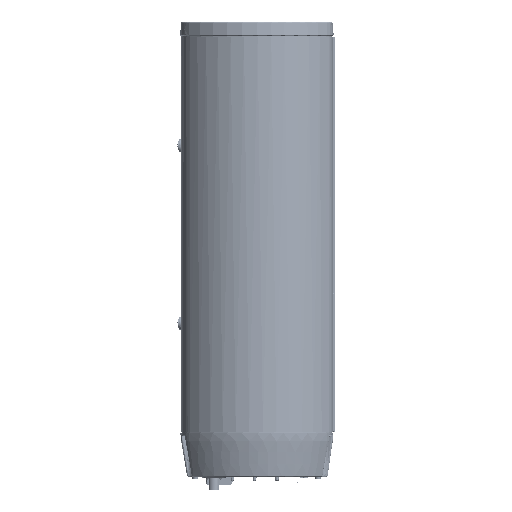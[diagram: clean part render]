
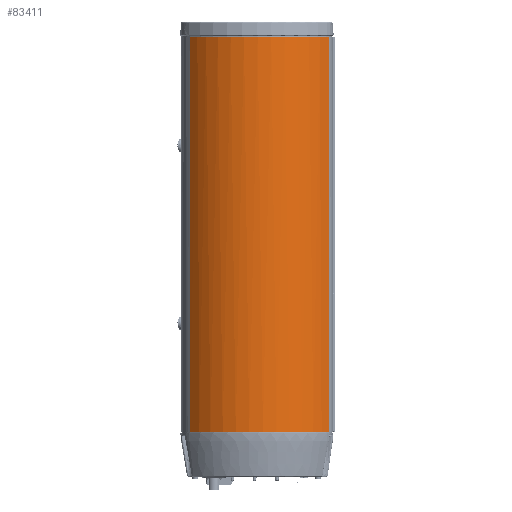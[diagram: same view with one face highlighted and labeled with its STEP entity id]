
A CAD part, left-side view. The second image highlights one B-rep face of the part: STEP entity #83411.
In plain terms, the highlighted cylindrical face has radius 81.17 mm (diameter 162.34 mm), a partial arc.
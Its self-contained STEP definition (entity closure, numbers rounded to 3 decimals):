
#901 = CARTESIAN_POINT ( 'NONE',  ( -45.294, -62.357, 356.6 ) ) ;
#932 = EDGE_CURVE ( 'NONE', #352922, #69994, #72249, .T. ) ;
#8185 = CARTESIAN_POINT ( 'NONE',  ( -54.368, -54.548, 1. ) ) ;
#23784 = CARTESIAN_POINT ( 'NONE',  ( -77.149, 5.384, 356.6 ) ) ;
#28968 = CARTESIAN_POINT ( 'NONE',  ( -45.294, -62.357, 119.533 ) ) ;
#39889 = CARTESIAN_POINT ( 'NONE',  ( -76.768, -6.563, 1. ) ) ;
#52323 = AXIS2_PLACEMENT_3D ( 'NONE', #254374, #110401, #84155 ) ;
#52720 = ORIENTED_EDGE ( 'NONE', *, *, #175938, .T. ) ;
#57370 = CARTESIAN_POINT ( 'NONE',  ( -62.019, -45.364, 356.6 ) ) ;
#62491 = CARTESIAN_POINT ( 'NONE',  ( -76.678, 11.379, 1. ) ) ;
#64326 = CARTESIAN_POINT ( 'NONE',  ( -62.019, -45.364, 1. ) ) ;
#69994 = VERTEX_POINT ( 'NONE', #242656 ) ;
#72249 = B_SPLINE_CURVE_WITH_KNOTS ( 'NONE', 3,
 ( #241922, #99760, #96093, #240087, #296239, #213853, #210177, #62491, #176644, #39889, #236434, #122332, #290723, #264488, #64326, #8185, #350460, #94270 ),
 .UNSPECIFIED., .F., .F.,
 ( 4, 2, 2, 2, 2, 2, 2, 2, 4 ),
 ( 0., 0.125, 0.25, 0.375, 0.5, 0.625, 0.75, 0.875, 1. ),
 .UNSPECIFIED. ) ;
#76653 = VERTEX_POINT ( 'NONE', #95900 ) ;
#79966 = CARTESIAN_POINT ( 'NONE',  ( -65.335, -40.348, 356.6 ) ) ;
#83411 = ADVANCED_FACE ( 'NONE', ( #136608 ), #220796, .T. ) ;
#83637 = CARTESIAN_POINT ( 'NONE',  ( -76.768, -6.563, 356.6 ) ) ;
#84155 = DIRECTION ( 'NONE',  ( 1., 0., 0. ) ) ;
#87245 = EDGE_LOOP ( 'NONE', ( #135929, #210791, #229023, #52720 ) ) ;
#94270 = CARTESIAN_POINT ( 'NONE',  ( -45.294, -62.357, 1. ) ) ;
#95900 = CARTESIAN_POINT ( 'NONE',  ( -45.294, -62.357, 356.6 ) ) ;
#96093 = CARTESIAN_POINT ( 'NONE',  ( -57.855, 54.699, 1. ) ) ;
#99760 = CARTESIAN_POINT ( 'NONE',  ( -53.795, 59.135, 1. ) ) ;
#108037 = CARTESIAN_POINT ( 'NONE',  ( -45.294, -62.357, 356.6 ) ) ;
#108099 = CARTESIAN_POINT ( 'NONE',  ( -49.298, 63.072, 356.6 ) ) ;
#110401 = DIRECTION ( 'NONE',  ( 0., 0., 1. ) ) ;
#113212 = CARTESIAN_POINT ( 'NONE',  ( -45.294, -62.357, 1. ) ) ;
#122332 = CARTESIAN_POINT ( 'NONE',  ( -72.925, -24.089, 1. ) ) ;
#135929 = ORIENTED_EDGE ( 'NONE', *, *, #176969, .F. ) ;
#136063 = VERTEX_POINT ( 'NONE', #357097 ) ;
#136608 = FACE_OUTER_BOUND ( 'NONE', #87245, .T. ) ;
#144855 = CARTESIAN_POINT ( 'NONE',  ( -49.298, 63.072, 1. ) ) ;
#163556 = B_SPLINE_CURVE_WITH_KNOTS ( 'NONE', 3,
 ( #252102, #308244, #287542, #108099 ),
 .UNSPECIFIED., .F., .F.,
 ( 4, 4 ),
 ( 0., 1. ),
 .UNSPECIFIED. ) ;
#171526 = CARTESIAN_POINT ( 'NONE',  ( -70.788, -29.71, 356.6 ) ) ;
#175938 = EDGE_CURVE ( 'NONE', #76653, #136063, #191438, .T. ) ;
#176644 = CARTESIAN_POINT ( 'NONE',  ( -77.149, 5.384, 1. ) ) ;
#176969 = EDGE_CURVE ( 'NONE', #352922, #136063, #163556, .T. ) ;
#191438 = B_SPLINE_CURVE_WITH_KNOTS ( 'NONE', 3,
 ( #108037, #369727, #194076, #57370, #79966, #171526, #199566, #306348, #83637, #23784, #225793, #223974, #308189, #367895, #343561, #229467, #252043, #278272 ),
 .UNSPECIFIED., .F., .F.,
 ( 4, 2, 2, 2, 2, 2, 2, 2, 4 ),
 ( 0., 0.125, 0.25, 0.375, 0.5, 0.625, 0.75, 0.875, 1. ),
 .UNSPECIFIED. ) ;
#194076 = CARTESIAN_POINT ( 'NONE',  ( -54.368, -54.548, 356.6 ) ) ;
#199566 = CARTESIAN_POINT ( 'NONE',  ( -72.925, -24.089, 356.6 ) ) ;
#210177 = CARTESIAN_POINT ( 'NONE',  ( -74.432, 23.12, 1. ) ) ;
#210791 = ORIENTED_EDGE ( 'NONE', *, *, #932, .T. ) ;
#213853 = CARTESIAN_POINT ( 'NONE',  ( -72.658, 28.865, 1. ) ) ;
#220796 = CYLINDRICAL_SURFACE ( 'NONE', #52323, 81.17 ) ;
#223974 = CARTESIAN_POINT ( 'NONE',  ( -74.432, 23.12, 356.6 ) ) ;
#225793 = CARTESIAN_POINT ( 'NONE',  ( -76.678, 11.379, 356.6 ) ) ;
#227289 = CARTESIAN_POINT ( 'NONE',  ( -45.294, -62.357, 238.067 ) ) ;
#229023 = ORIENTED_EDGE ( 'NONE', *, *, #241757, .T. ) ;
#229467 = CARTESIAN_POINT ( 'NONE',  ( -57.855, 54.699, 356.6 ) ) ;
#236434 = CARTESIAN_POINT ( 'NONE',  ( -75.915, -12.516, 1. ) ) ;
#240087 = CARTESIAN_POINT ( 'NONE',  ( -64.905, 45.046, 1. ) ) ;
#241757 = EDGE_CURVE ( 'NONE', #69994, #76653, #247548, .T. ) ;
#241922 = CARTESIAN_POINT ( 'NONE',  ( -49.298, 63.072, 1. ) ) ;
#242656 = CARTESIAN_POINT ( 'NONE',  ( -45.294, -62.357, 1. ) ) ;
#247548 = B_SPLINE_CURVE_WITH_KNOTS ( 'NONE', 3,
 ( #113212, #28968, #227289, #901 ),
 .UNSPECIFIED., .F., .F.,
 ( 4, 4 ),
 ( 0., 1. ),
 .UNSPECIFIED. ) ;
#252043 = CARTESIAN_POINT ( 'NONE',  ( -53.795, 59.135, 356.6 ) ) ;
#252102 = CARTESIAN_POINT ( 'NONE',  ( -49.298, 63.072, 1. ) ) ;
#254374 = CARTESIAN_POINT ( 'NONE',  ( 4.17, 2., -40. ) ) ;
#264488 = CARTESIAN_POINT ( 'NONE',  ( -65.335, -40.348, 1. ) ) ;
#278272 = CARTESIAN_POINT ( 'NONE',  ( -49.298, 63.072, 356.6 ) ) ;
#287542 = CARTESIAN_POINT ( 'NONE',  ( -49.298, 63.072, 238.067 ) ) ;
#290723 = CARTESIAN_POINT ( 'NONE',  ( -70.788, -29.71, 1. ) ) ;
#296239 = CARTESIAN_POINT ( 'NONE',  ( -67.894, 39.829, 1. ) ) ;
#306348 = CARTESIAN_POINT ( 'NONE',  ( -75.915, -12.516, 356.6 ) ) ;
#308189 = CARTESIAN_POINT ( 'NONE',  ( -72.658, 28.865, 356.6 ) ) ;
#308244 = CARTESIAN_POINT ( 'NONE',  ( -49.298, 63.072, 119.533 ) ) ;
#343561 = CARTESIAN_POINT ( 'NONE',  ( -64.905, 45.046, 356.6 ) ) ;
#350460 = CARTESIAN_POINT ( 'NONE',  ( -50.033, -58.715, 1. ) ) ;
#352922 = VERTEX_POINT ( 'NONE', #144855 ) ;
#357097 = CARTESIAN_POINT ( 'NONE',  ( -49.298, 63.072, 356.6 ) ) ;
#367895 = CARTESIAN_POINT ( 'NONE',  ( -67.894, 39.829, 356.6 ) ) ;
#369727 = CARTESIAN_POINT ( 'NONE',  ( -50.033, -58.715, 356.6 ) ) ;
